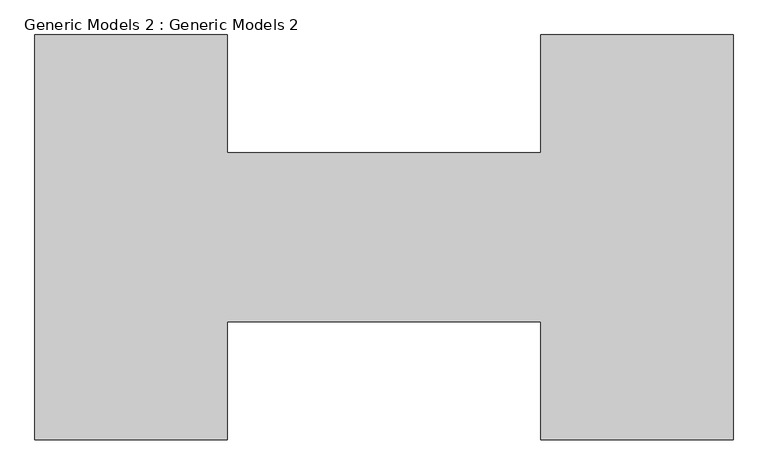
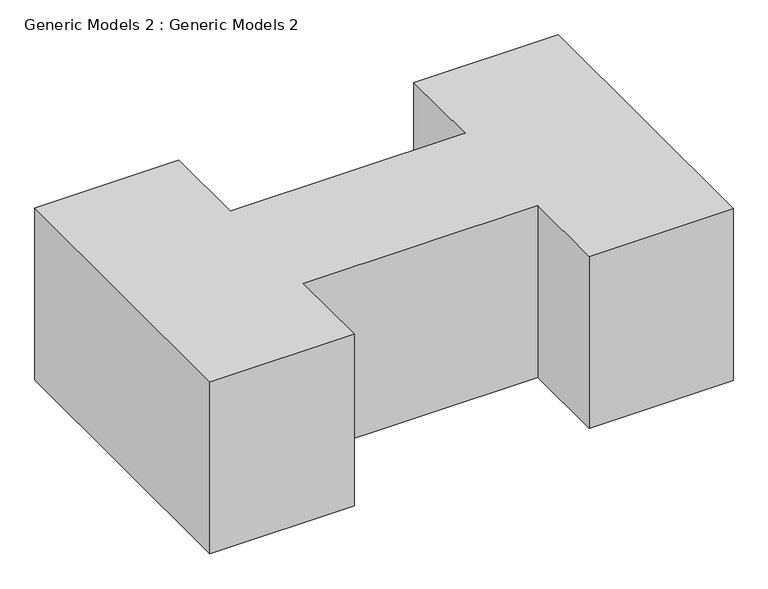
"""IFC4 building model written with IfcOpenShell, lengths in millimetres: proxy geometry, Generic Models 2 : Generic Models 2."""

import ifcopenshell
import ifcopenshell.guid

model = None  # the IFC model being written
_history = None  # IfcOwnerHistory: only IFC2X3 demands one
_inside = {}  # id of a spatial element -> (the spatial element, [elements in it])
_under = {}  # id of a project, library or spatial element -> (it, [spatial elements below it])
_declared = {}  # id of a project -> (the project, [libraries it declares])
_typed = {}  # id of a type object -> (the type object, [elements of that type])
_made_of = {}  # id of a material, layer set ... -> (it, [elements and type objects made of it])


def new_model(schema):
    """Start an empty IFC model of exactly this schema.

    Asked for "IFC4X3", IfcOpenShell would pick the latest addendum, in which some entities
    have other attributes; the version numbers below select the first issue.
    IFC2X3 requires an IfcOwnerHistory on every rooted entity: one is made here for all.
    """
    global model, _history
    if schema == "IFC4X3":
        model = ifcopenshell.file(schema_version=(4, 3, 0, 0))
    else:
        model = ifcopenshell.file(schema=schema)
    _inside.clear()
    _under.clear()
    _declared.clear()
    _typed.clear()
    _made_of.clear()
    _history = None
    if model.schema == "IFC2X3":
        org = make("IfcOrganization", Name="unknown")
        user = make(
            "IfcPersonAndOrganization",
            ThePerson=make("IfcPerson", FamilyName="unknown"),
            TheOrganization=org,
        )
        app = make(
            "IfcApplication",
            ApplicationDeveloper=org,
            Version="unknown",
            ApplicationFullName="unknown",
            ApplicationIdentifier="unknown",
        )
        _history = make(
            "IfcOwnerHistory",
            OwningUser=user,
            OwningApplication=app,
            ChangeAction="ADDED",
            CreationDate=0,
        )
    return model


def make(cls, **values):
    """One entity of the class cls with the attributes given. An attribute that is None is left unset."""
    return model.create_entity(
        cls, **{name: value for name, value in values.items() if value is not None}
    )


def rooted(cls, **values):
    """An entity with a GlobalId (a new one), such as an element, a storey or a relation."""
    return make(cls, GlobalId=ifcopenshell.guid.new(), OwnerHistory=_history, **values)


def si_unit(unit_type, name, prefix=None):
    """IfcSIUnit, for example si_unit("LENGTHUNIT", "METRE", prefix="MILLI")."""
    return make("IfcSIUnit", UnitType=unit_type, Prefix=prefix, Name=name)


def assignment(units):
    """IfcUnitAssignment: the units of a project."""
    return None if units is None else make("IfcUnitAssignment", Units=units)


def point(xyz):
    """IfcCartesianPoint."""
    return None if xyz is None else make("IfcCartesianPoint", Coordinates=xyz)


def direction(xyz):
    """IfcDirection."""
    return None if xyz is None else make("IfcDirection", DirectionRatios=xyz)


def frame(location, z_axis=None, x_axis=None):
    """IfcAxis2Placement3D, a coordinate frame: its origin and axes. An axis left out is left unset."""
    return make(
        "IfcAxis2Placement3D",
        Location=point(location),
        Axis=direction(z_axis),
        RefDirection=direction(x_axis),
    )


def origin():
    """The frame at (0, 0, 0) with its axes left unset."""
    return frame((0.0, 0.0, 0.0))


def place(relative_to, where):
    """IfcLocalPlacement: puts the frame where relative to a parent placement (None: the world)."""
    return make(
        "IfcLocalPlacement", PlacementRelTo=relative_to, RelativePlacement=where
    )


def context(
    kind, dimensions, precision=None, world=None, true_north=None, identifier=None
):
    """IfcGeometricRepresentationContext, for example the 3D "Model" context."""
    return make(
        "IfcGeometricRepresentationContext",
        ContextIdentifier=identifier,
        ContextType=kind,
        CoordinateSpaceDimension=dimensions,
        Precision=precision,
        WorldCoordinateSystem=world,
        TrueNorth=true_north,
    )


def project(units=None, contexts=None):
    """IfcProject with its units and contexts."""
    return rooted(
        "IfcProject",
        Name="project",
        RepresentationContexts=contexts,
        UnitsInContext=assignment(units),
    )


def spatial(cls, under=None, at=None, **own):
    """A site, building, storey or space (cls), placed at a placement, below another one or the project."""
    s = rooted(cls, ObjectPlacement=at, **own)
    if under is not None:
        _under.setdefault(under.id(), (under, []))[1].append(s)
    return s


def polyline(points):
    """IfcPolyline through the points."""
    return make("IfcPolyline", Points=[point(p) for p in points])


def outline(outer, holes=None, kind="AREA"):
    """IfcArbitraryClosedProfileDef: a profile drawn as a closed curve; with holes, ...WithVoids."""
    if holes is None:
        return make("IfcArbitraryClosedProfileDef", ProfileType=kind, OuterCurve=outer)
    return make(
        "IfcArbitraryProfileDefWithVoids",
        ProfileType=kind,
        OuterCurve=outer,
        InnerCurves=holes,
    )


def extrude(swept, where, along, depth):
    """IfcExtrudedAreaSolid: the profile swept, set in the frame where, extruded along a direction by depth."""
    return make(
        "IfcExtrudedAreaSolid",
        SweptArea=swept,
        Position=where,
        ExtrudedDirection=direction(along),
        Depth=depth,
    )


def shape(context_of_items, identifier, shape_type, items):
    """IfcShapeRepresentation: the items that make up one representation, for example the "Body"."""
    return make(
        "IfcShapeRepresentation",
        ContextOfItems=context_of_items,
        RepresentationIdentifier=identifier,
        RepresentationType=shape_type,
        Items=items,
    )


def source(mapping_origin, context_of_items, identifier, shape_type, items):
    """IfcRepresentationMap: a shape defined once, which mapped items show again and again."""
    return make(
        "IfcRepresentationMap",
        MappingOrigin=mapping_origin,
        MappedRepresentation=shape(context_of_items, identifier, shape_type, items),
    )


def transform(
    local_origin,
    x_axis=None,
    y_axis=None,
    z_axis=None,
    scale=None,
    scale2=None,
    scale3=None,
    uniform=True,
):
    """IfcCartesianTransformationOperator3D, or its non-uniform kind. x_axis, y_axis, z_axis: its Axis1, 2, 3."""
    if uniform:
        return make(
            "IfcCartesianTransformationOperator3D",
            Axis1=direction(x_axis),
            Axis2=direction(y_axis),
            LocalOrigin=point(local_origin),
            Scale=scale,
            Axis3=direction(z_axis),
        )
    return make(
        "IfcCartesianTransformationOperator3DnonUniform",
        Axis1=direction(x_axis),
        Axis2=direction(y_axis),
        LocalOrigin=point(local_origin),
        Scale=scale,
        Axis3=direction(z_axis),
        Scale2=scale2,
        Scale3=scale3,
    )


def mapped(mapping_source, mapping_target):
    """IfcMappedItem: shows the shape of a source again, moved by a transform."""
    return make(
        "IfcMappedItem", MappingSource=mapping_source, MappingTarget=mapping_target
    )


def made_of(thing, what):
    """Note that an element or type object is made of a material, layer set ...; save() writes the relation."""
    if what is not None:
        _made_of.setdefault(what.id(), (what, []))[1].append(thing)
    return thing


def element(
    cls,
    number,
    at=None,
    inside=None,
    cuts=None,
    type_object=None,
    material=None,
    context=None,
    identifier="Body",
    shape_type=None,
    held_by="IfcProductDefinitionShape",
    body=None,
    shapes=None,
    **own,
):
    """One element of the class cls, such as IfcWall. Its Tag is "e" and its number.

    at: its placement. inside: the storey or other place that contains it. cuts: it is an
    opening in that element (IfcRelVoidsElement). A single representation is given by context,
    identifier, shape_type and body (its items); several are given by shapes. held_by: the class
    of the entity that holds the representations. save() writes the other relations.
    """
    e = rooted(cls, Tag="e%d" % number, ObjectPlacement=at, **own)
    if body is not None:
        shapes = [shape(context, identifier, shape_type, body)]
    if shapes is not None:
        e.Representation = make(held_by, Representations=shapes)
    if inside is not None:
        _inside.setdefault(inside.id(), (inside, []))[1].append(e)
    if cuts is not None:
        rooted(
            "IfcRelVoidsElement", RelatingBuildingElement=cuts, RelatedOpeningElement=e
        )
    if type_object is not None:
        _typed.setdefault(type_object.id(), (type_object, []))[1].append(e)
    return made_of(e, material)


def aggregate(whole, parts):
    """IfcRelAggregates: a whole, such as a stair, and the parts it consists of."""
    return rooted("IfcRelAggregates", RelatingObject=whole, RelatedObjects=parts)


def save(model, path):
    """Write the relations noted so far, then the file.

    IfcRelAggregates (storeys below a building ...), IfcRelContainedInSpatialStructure (elements
    in a storey), IfcRelDefinesByType, IfcRelAssociatesMaterial and IfcRelDeclares: one each for
    every whole, place, type object, material and project.
    """
    for whole, parts in _under.values():
        aggregate(whole, parts)
    for where, things in _inside.values():
        rooted(
            "IfcRelContainedInSpatialStructure",
            RelatedElements=things,
            RelatingStructure=where,
        )
    for kind, things in _typed.values():
        rooted("IfcRelDefinesByType", RelatedObjects=things, RelatingType=kind)
    for what, things in _made_of.values():
        rooted("IfcRelAssociatesMaterial", RelatedObjects=things, RelatingMaterial=what)
    for by, libraries in _declared.values():
        rooted("IfcRelDeclares", RelatingContext=by, RelatedDefinitions=libraries)
    model.write(path)


def generic_models_2_generic_models_2_6f7b25b5(model_context):
    return source(origin(), model_context, "Body", "SweptSolid", [
        extrude(outline(polyline([(8648.2065511, -2265.3176802), (9218.2065511, -2265.3176802), (9218.2065511, -2615.3176802), (10148.2065511, -2615.3176802), (10148.2065511, -2265.3176802), (10718.2065511, -2265.3176802), (10718.2065511, -3465.3176802), (10148.2065511, -3465.3176802), (10148.2065511, -3115.3176802), (9218.2065511, -3115.3176802), (9218.2065511, -3465.3176802), (8648.2065511, -3465.3176802), (8648.2065511, -2265.3176802)])), frame((0.0, 0.0, 100.0), z_axis=(0.0, 0.0, 1.0), x_axis=(1.0, 0.0, 0.0)), (0.0, 0.0, 1.0), 720.0),
    ])


if __name__ == "__main__":
    model = new_model("IFC4")
    model_context = context("Model", 3, world=origin())
    ifc_project = project(units=[si_unit("LENGTHUNIT", "METRE", prefix="MILLI")], contexts=[model_context])
    site = spatial("IfcSite", under=ifc_project)
    building = spatial("IfcBuilding", under=site)
    placement = place(None, origin())
    generic_models_2_generic_models_2_shape = generic_models_2_generic_models_2_6f7b25b5(model_context)
    element("IfcBuildingElementProxy", 1, Name="Generic Models 2 : Generic Models 2", ObjectType="Generic Models 2 : Generic Models 2", at=placement, inside=building, context=model_context, shape_type="MappedRepresentation", body=[
        mapped(generic_models_2_generic_models_2_shape, transform((0.0, 0.0, 0.0), x_axis=(1.0, 0.0, 0.0), y_axis=(0.0, 1.0, 0.0), z_axis=(0.0, 0.0, 1.0))),
    ])
    save(model, "model.ifc")
